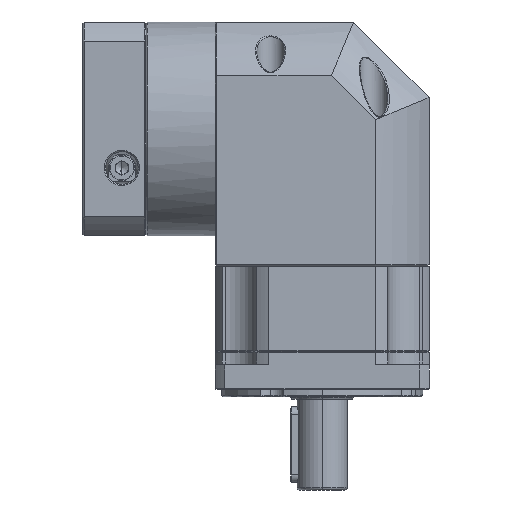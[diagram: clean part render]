
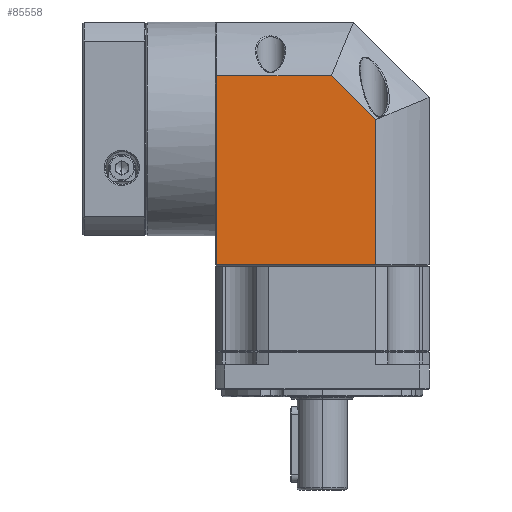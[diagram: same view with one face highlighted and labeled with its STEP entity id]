
A CAD part, left-side view. The second image highlights one B-rep face of the part: STEP entity #85558.
In plain terms, the highlighted planar face has unit normal (-1, 0, 0).
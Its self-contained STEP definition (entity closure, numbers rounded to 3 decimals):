
#1727 = ORIENTED_EDGE ( 'NONE', *, *, #93372, .T. ) ;
#2957 = CARTESIAN_POINT ( 'NONE',  ( -65.225, 47.215, 230.5 ) ) ;
#5414 = DIRECTION ( 'NONE',  ( 0., -0.707, -0.707 ) ) ;
#6545 = EDGE_LOOP ( 'NONE', ( #1727, #47010, #144501, #76509, #23609 ) ) ;
#7291 = CARTESIAN_POINT ( 'NONE',  ( -65.225, -16.498, 134. ) ) ;
#11514 = AXIS2_PLACEMENT_3D ( 'NONE', #2957, #97577, #16586 ) ;
#12755 = VERTEX_POINT ( 'NONE', #30093 ) ;
#16586 = DIRECTION ( 'NONE',  ( 0., 1., 0. ) ) ;
#20436 = EDGE_CURVE ( 'NONE', #79874, #112643, #149958, .T. ) ;
#23609 = ORIENTED_EDGE ( 'NONE', *, *, #45353, .F. ) ;
#30093 = CARTESIAN_POINT ( 'NONE',  ( -65.225, 46.715, 134. ) ) ;
#38580 = CARTESIAN_POINT ( 'NONE',  ( -65.225, 47.215, 209.213 ) ) ;
#42059 = VECTOR ( 'NONE', #156374, 1000. ) ;
#42584 = LINE ( 'NONE', #72920, #74332 ) ;
#43157 = VERTEX_POINT ( 'NONE', #60208 ) ;
#43912 = FACE_OUTER_BOUND ( 'NONE', #6545, .T. ) ;
#45353 = EDGE_CURVE ( 'NONE', #12755, #50183, #116075, .T. ) ;
#47010 = ORIENTED_EDGE ( 'NONE', *, *, #20436, .F. ) ;
#49292 = DIRECTION ( 'NONE',  ( 0., -1., 0. ) ) ;
#49778 = LINE ( 'NONE', #130240, #121708 ) ;
#50183 = VERTEX_POINT ( 'NONE', #158079 ) ;
#52220 = DIRECTION ( 'NONE',  ( 0., -1., 0. ) ) ;
#60208 = CARTESIAN_POINT ( 'NONE',  ( -65.225, 1.033, 209.213 ) ) ;
#72920 = CARTESIAN_POINT ( 'NONE',  ( -65.225, 1.033, 209.213 ) ) ;
#73669 = DIRECTION ( 'NONE',  ( 0., 0., 1. ) ) ;
#74332 = VECTOR ( 'NONE', #5414, 1000. ) ;
#76509 = ORIENTED_EDGE ( 'NONE', *, *, #139040, .F. ) ;
#79874 = VERTEX_POINT ( 'NONE', #136753 ) ;
#85558 = ADVANCED_FACE ( 'NONE', ( #43912 ), #163776, .F. ) ;
#93372 = EDGE_CURVE ( 'NONE', #12755, #112643, #49778, .T. ) ;
#97577 = DIRECTION ( 'NONE',  ( 1., 0., 0. ) ) ;
#112643 = VERTEX_POINT ( 'NONE', #7291 ) ;
#116075 = LINE ( 'NONE', #141065, #143595 ) ;
#121708 = VECTOR ( 'NONE', #49292, 1000. ) ;
#122178 = LINE ( 'NONE', #38580, #158104 ) ;
#130240 = CARTESIAN_POINT ( 'NONE',  ( -65.225, 47.215, 134. ) ) ;
#136753 = CARTESIAN_POINT ( 'NONE',  ( -65.225, -16.498, 191.683 ) ) ;
#137741 = EDGE_CURVE ( 'NONE', #43157, #79874, #42584, .T. ) ;
#139040 = EDGE_CURVE ( 'NONE', #50183, #43157, #122178, .T. ) ;
#141065 = CARTESIAN_POINT ( 'NONE',  ( -65.225, 46.715, 230.5 ) ) ;
#143595 = VECTOR ( 'NONE', #73669, 1000. ) ;
#144501 = ORIENTED_EDGE ( 'NONE', *, *, #137741, .F. ) ;
#149958 = LINE ( 'NONE', #169895, #42059 ) ;
#156374 = DIRECTION ( 'NONE',  ( 0., 0., -1. ) ) ;
#158079 = CARTESIAN_POINT ( 'NONE',  ( -65.225, 46.715, 209.213 ) ) ;
#158104 = VECTOR ( 'NONE', #52220, 1000. ) ;
#163776 = PLANE ( 'NONE',  #11514 ) ;
#169895 = CARTESIAN_POINT ( 'NONE',  ( -65.225, -16.498, 234. ) ) ;
